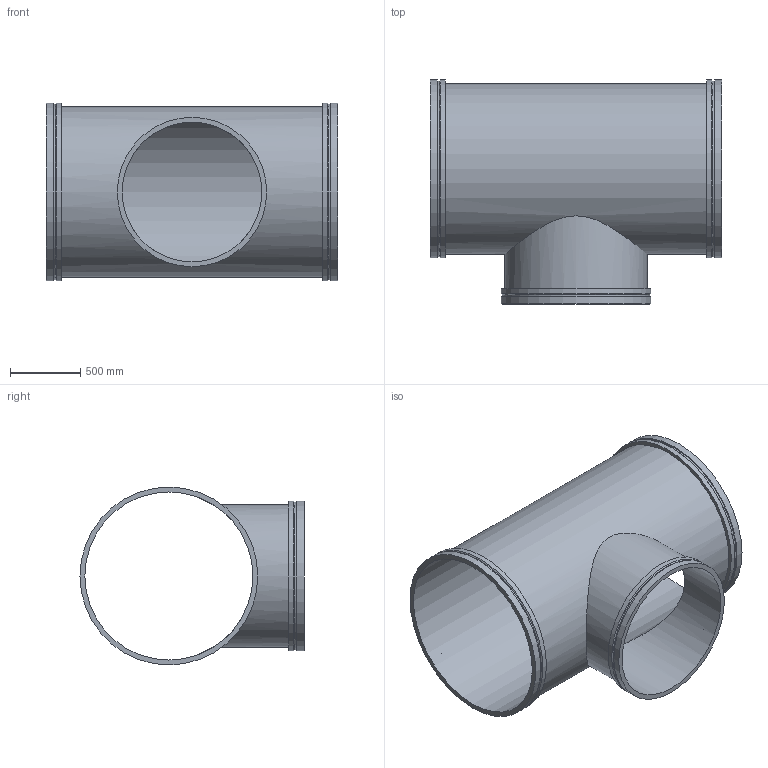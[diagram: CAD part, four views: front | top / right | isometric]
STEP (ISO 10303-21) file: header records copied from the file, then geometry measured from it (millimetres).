
FILE_DESCRIPTION(/* description */ ('VIC REDUCING TEE No W025 VR','CAx-IF Rec.Pracs.---Representation and Presentation of Product Manufacturing Information (PMI)---4.0---2014-10-13'),/* implementation_level */ '2;1');
FILE_NAME(/* name */ 'C:\Users\kkamble\AppData\Roaming\Autodesk\ApplicationPlugins\Back Up\Victaulic_Vic-Ring_Tee Reducing_No W25 VR (AGR)\Victaulic_Vic-Ring_Tee Reducing_No W25 VR (AGR)_48.0x40.0 (1200x1000).stp',/* time_stamp */ '2020-09-10T11:57:23+05:00',/* author */ ('mchristi'),/* organization */ ('Victaulic'),/* preprocessor_version */ 'ST-DEVELOPER v17.2',/* originating_system */ 'Autodesk Inventor 2019',/* authorisation */ '');
FILE_SCHEMA (('AP242_MANAGED_MODEL_BASED_3D_ENGINEERING_MIM_LF { 1 0 10303 442 1 1 4 }'));
Length unit declared in the file: inch
Products named in the file (1): W25 VR-48.0x40.0
Bounding box: 2082.8 x 1600.2 x 1270 mm (x, y, z)
Volume: 110444948.4 mm3; surface area: 17957564.1 mm2
Topology: 1 solids, 1 shells, 25 faces, 68 edges, 52 vertices
Faces by surface type: cylinder 13, plane 9, cone 3
Full cylindrical faces by diameter (mm): 996.95 x1, 1016 x1, 1050.925 x1, 1066.8 x2, 1200.15 x1, 1219.2 x1, 1254.125 x2, 1270 x4
Entity records: 1251 total; most frequent: CARTESIAN_POINT 407, DIRECTION 190, ORIENTED_EDGE 136, AXIS2_PLACEMENT_3D 87, EDGE_CURVE 68, VERTEX_POINT 52, CIRCLE 48, EDGE_LOOP 36
